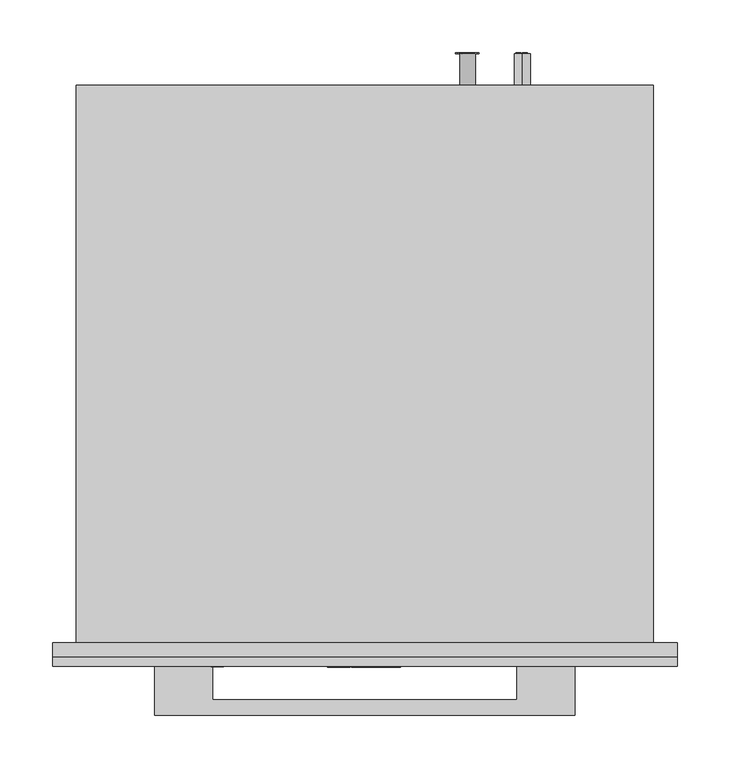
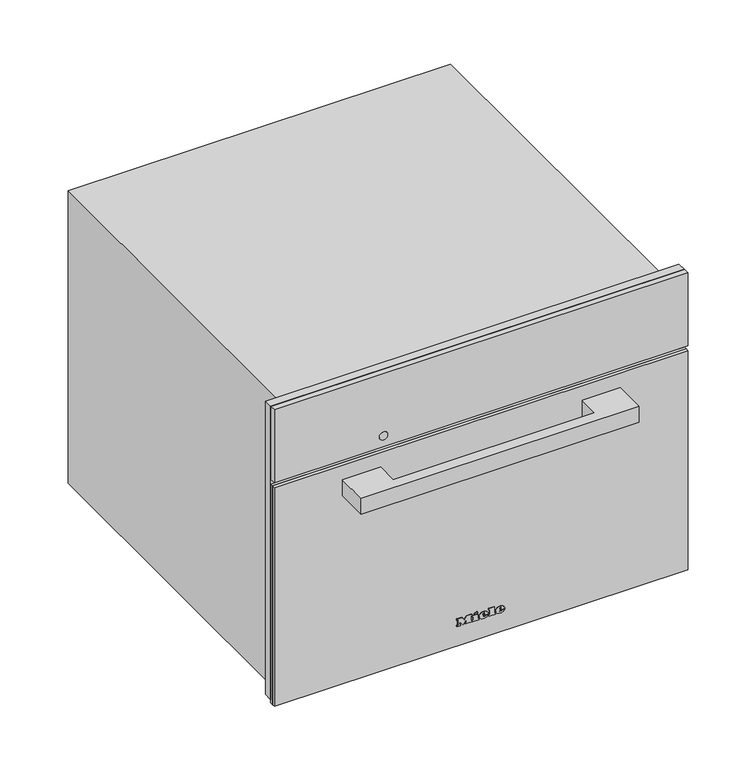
"""IFC4 building model written with IfcOpenShell, lengths in millimetres: proxy geometry, 11094550_GB_DGM7845_GRGR : 23784534_GB_11094550_DGM7845_GRGR."""

import ifcopenshell
import ifcopenshell.guid

model = None  # the IFC model being written
_history = None  # IfcOwnerHistory: only IFC2X3 demands one
_inside = {}  # id of a spatial element -> (the spatial element, [elements in it])
_under = {}  # id of a project, library or spatial element -> (it, [spatial elements below it])
_declared = {}  # id of a project -> (the project, [libraries it declares])
_typed = {}  # id of a type object -> (the type object, [elements of that type])
_made_of = {}  # id of a material, layer set ... -> (it, [elements and type objects made of it])


def new_model(schema):
    """Start an empty IFC model of exactly this schema.

    Asked for "IFC4X3", IfcOpenShell would pick the latest addendum, in which some entities
    have other attributes; the version numbers below select the first issue.
    IFC2X3 requires an IfcOwnerHistory on every rooted entity: one is made here for all.
    """
    global model, _history
    if schema == "IFC4X3":
        model = ifcopenshell.file(schema_version=(4, 3, 0, 0))
    else:
        model = ifcopenshell.file(schema=schema)
    _inside.clear()
    _under.clear()
    _declared.clear()
    _typed.clear()
    _made_of.clear()
    _history = None
    if model.schema == "IFC2X3":
        org = make("IfcOrganization", Name="unknown")
        user = make(
            "IfcPersonAndOrganization",
            ThePerson=make("IfcPerson", FamilyName="unknown"),
            TheOrganization=org,
        )
        app = make(
            "IfcApplication",
            ApplicationDeveloper=org,
            Version="unknown",
            ApplicationFullName="unknown",
            ApplicationIdentifier="unknown",
        )
        _history = make(
            "IfcOwnerHistory",
            OwningUser=user,
            OwningApplication=app,
            ChangeAction="ADDED",
            CreationDate=0,
        )
    return model


def make(cls, **values):
    """One entity of the class cls with the attributes given. An attribute that is None is left unset."""
    return model.create_entity(
        cls, **{name: value for name, value in values.items() if value is not None}
    )


def rooted(cls, **values):
    """An entity with a GlobalId (a new one), such as an element, a storey or a relation."""
    return make(cls, GlobalId=ifcopenshell.guid.new(), OwnerHistory=_history, **values)


def si_unit(unit_type, name, prefix=None):
    """IfcSIUnit, for example si_unit("LENGTHUNIT", "METRE", prefix="MILLI")."""
    return make("IfcSIUnit", UnitType=unit_type, Prefix=prefix, Name=name)


def assignment(units):
    """IfcUnitAssignment: the units of a project."""
    return None if units is None else make("IfcUnitAssignment", Units=units)


def point(xyz):
    """IfcCartesianPoint."""
    return None if xyz is None else make("IfcCartesianPoint", Coordinates=xyz)


def direction(xyz):
    """IfcDirection."""
    return None if xyz is None else make("IfcDirection", DirectionRatios=xyz)


def frame(location, z_axis=None, x_axis=None):
    """IfcAxis2Placement3D, a coordinate frame: its origin and axes. An axis left out is left unset."""
    return make(
        "IfcAxis2Placement3D",
        Location=point(location),
        Axis=direction(z_axis),
        RefDirection=direction(x_axis),
    )


def frame_2d(location, x_axis=None):
    """IfcAxis2Placement2D, a coordinate frame in the plane: its origin and x axis."""
    return make(
        "IfcAxis2Placement2D", Location=point(location), RefDirection=direction(x_axis)
    )


def origin():
    """The frame at (0, 0, 0) with its axes left unset."""
    return frame((0.0, 0.0, 0.0))


def place(relative_to, where):
    """IfcLocalPlacement: puts the frame where relative to a parent placement (None: the world)."""
    return make(
        "IfcLocalPlacement", PlacementRelTo=relative_to, RelativePlacement=where
    )


def context(
    kind, dimensions, precision=None, world=None, true_north=None, identifier=None
):
    """IfcGeometricRepresentationContext, for example the 3D "Model" context."""
    return make(
        "IfcGeometricRepresentationContext",
        ContextIdentifier=identifier,
        ContextType=kind,
        CoordinateSpaceDimension=dimensions,
        Precision=precision,
        WorldCoordinateSystem=world,
        TrueNorth=true_north,
    )


def project(units=None, contexts=None):
    """IfcProject with its units and contexts."""
    return rooted(
        "IfcProject",
        Name="project",
        RepresentationContexts=contexts,
        UnitsInContext=assignment(units),
    )


def spatial(cls, under=None, at=None, **own):
    """A site, building, storey or space (cls), placed at a placement, below another one or the project."""
    s = rooted(cls, ObjectPlacement=at, **own)
    if under is not None:
        _under.setdefault(under.id(), (under, []))[1].append(s)
    return s


def polyline(points):
    """IfcPolyline through the points."""
    return make("IfcPolyline", Points=[point(p) for p in points])


def circle_curve(where, radius):
    """IfcCircle in the frame where."""
    return make("IfcCircle", Position=where, Radius=radius)


def ellipse_curve(where, semi_axis1, semi_axis2):
    """IfcEllipse in the frame where."""
    return make(
        "IfcEllipse", Position=where, SemiAxis1=semi_axis1, SemiAxis2=semi_axis2
    )


def trimmed(basis, trim1, trim2, sense, master):
    """IfcTrimmedCurve: the piece of a basis curve between two trims."""
    return make(
        "IfcTrimmedCurve",
        BasisCurve=basis,
        Trim1=trim1,
        Trim2=trim2,
        SenseAgreement=sense,
        MasterRepresentation=master,
    )


def segment(curve, same_sense, transition):
    """IfcCompositeCurveSegment."""
    return make(
        "IfcCompositeCurveSegment",
        Transition=transition,
        SameSense=same_sense,
        ParentCurve=curve,
    )


def composite_curve(segments, self_intersect=None):
    """IfcCompositeCurve: segments joined end to end."""
    return make("IfcCompositeCurve", Segments=segments, SelfIntersect=self_intersect)


def outline(outer, holes=None, kind="AREA"):
    """IfcArbitraryClosedProfileDef: a profile drawn as a closed curve; with holes, ...WithVoids."""
    if holes is None:
        return make("IfcArbitraryClosedProfileDef", ProfileType=kind, OuterCurve=outer)
    return make(
        "IfcArbitraryProfileDefWithVoids",
        ProfileType=kind,
        OuterCurve=outer,
        InnerCurves=holes,
    )


def extrude(swept, where, along, depth):
    """IfcExtrudedAreaSolid: the profile swept, set in the frame where, extruded along a direction by depth."""
    return make(
        "IfcExtrudedAreaSolid",
        SweptArea=swept,
        Position=where,
        ExtrudedDirection=direction(along),
        Depth=depth,
    )


def faces_of(points, faces, orient=None, outer=None):
    """IfcFace entities. A face is a list of loops; a loop is a list of indices into points, from 0.

    orient and outer hold one flag for each loop. By default every Orientation is true, the
    first loop of a face is its IfcFaceOuterBound and the others are IfcFaceBound.
    """
    made = []
    for i, loops in enumerate(faces):
        bounds = []
        for j, loop in enumerate(loops):
            is_outer = j == 0 if outer is None else outer[i][j]
            bounds.append(
                make(
                    "IfcFaceOuterBound" if is_outer else "IfcFaceBound",
                    Bound=make("IfcPolyLoop", Polygon=[points[k] for k in loop]),
                    Orientation=True if orient is None else orient[i][j],
                )
            )
        made.append(make("IfcFace", Bounds=bounds))
    return made


def faceted_brep(points, faces, orient=None, outer=None, voids=None):
    """IfcFacetedBrep: a solid bounded by flat faces; with voids (closed shells), ...WithVoids."""
    shared = [point(p) for p in points]
    hull = make("IfcClosedShell", CfsFaces=faces_of(shared, faces, orient, outer))
    if voids is None:
        return make("IfcFacetedBrep", Outer=hull)
    return make(
        "IfcFacetedBrepWithVoids",
        Outer=hull,
        Voids=[
            make(cls, CfsFaces=faces_of(shared, fs, o, b)) for cls, fs, o, b in voids
        ],
    )


def shape(context_of_items, identifier, shape_type, items):
    """IfcShapeRepresentation: the items that make up one representation, for example the "Body"."""
    return make(
        "IfcShapeRepresentation",
        ContextOfItems=context_of_items,
        RepresentationIdentifier=identifier,
        RepresentationType=shape_type,
        Items=items,
    )


def source(mapping_origin, context_of_items, identifier, shape_type, items):
    """IfcRepresentationMap: a shape defined once, which mapped items show again and again."""
    return make(
        "IfcRepresentationMap",
        MappingOrigin=mapping_origin,
        MappedRepresentation=shape(context_of_items, identifier, shape_type, items),
    )


def transform(
    local_origin,
    x_axis=None,
    y_axis=None,
    z_axis=None,
    scale=None,
    scale2=None,
    scale3=None,
    uniform=True,
):
    """IfcCartesianTransformationOperator3D, or its non-uniform kind. x_axis, y_axis, z_axis: its Axis1, 2, 3."""
    if uniform:
        return make(
            "IfcCartesianTransformationOperator3D",
            Axis1=direction(x_axis),
            Axis2=direction(y_axis),
            LocalOrigin=point(local_origin),
            Scale=scale,
            Axis3=direction(z_axis),
        )
    return make(
        "IfcCartesianTransformationOperator3DnonUniform",
        Axis1=direction(x_axis),
        Axis2=direction(y_axis),
        LocalOrigin=point(local_origin),
        Scale=scale,
        Axis3=direction(z_axis),
        Scale2=scale2,
        Scale3=scale3,
    )


def mapped(mapping_source, mapping_target):
    """IfcMappedItem: shows the shape of a source again, moved by a transform."""
    return make(
        "IfcMappedItem", MappingSource=mapping_source, MappingTarget=mapping_target
    )


def made_of(thing, what):
    """Note that an element or type object is made of a material, layer set ...; save() writes the relation."""
    if what is not None:
        _made_of.setdefault(what.id(), (what, []))[1].append(thing)
    return thing


def element(
    cls,
    number,
    at=None,
    inside=None,
    cuts=None,
    type_object=None,
    material=None,
    context=None,
    identifier="Body",
    shape_type=None,
    held_by="IfcProductDefinitionShape",
    body=None,
    shapes=None,
    **own,
):
    """One element of the class cls, such as IfcWall. Its Tag is "e" and its number.

    at: its placement. inside: the storey or other place that contains it. cuts: it is an
    opening in that element (IfcRelVoidsElement). A single representation is given by context,
    identifier, shape_type and body (its items); several are given by shapes. held_by: the class
    of the entity that holds the representations. save() writes the other relations.
    """
    e = rooted(cls, Tag="e%d" % number, ObjectPlacement=at, **own)
    if body is not None:
        shapes = [shape(context, identifier, shape_type, body)]
    if shapes is not None:
        e.Representation = make(held_by, Representations=shapes)
    if inside is not None:
        _inside.setdefault(inside.id(), (inside, []))[1].append(e)
    if cuts is not None:
        rooted(
            "IfcRelVoidsElement", RelatingBuildingElement=cuts, RelatedOpeningElement=e
        )
    if type_object is not None:
        _typed.setdefault(type_object.id(), (type_object, []))[1].append(e)
    return made_of(e, material)


def aggregate(whole, parts):
    """IfcRelAggregates: a whole, such as a stair, and the parts it consists of."""
    return rooted("IfcRelAggregates", RelatingObject=whole, RelatedObjects=parts)


def save(model, path):
    """Write the relations noted so far, then the file.

    IfcRelAggregates (storeys below a building ...), IfcRelContainedInSpatialStructure (elements
    in a storey), IfcRelDefinesByType, IfcRelAssociatesMaterial and IfcRelDeclares: one each for
    every whole, place, type object, material and project.
    """
    for whole, parts in _under.values():
        aggregate(whole, parts)
    for where, things in _inside.values():
        rooted(
            "IfcRelContainedInSpatialStructure",
            RelatedElements=things,
            RelatingStructure=where,
        )
    for kind, things in _typed.values():
        rooted("IfcRelDefinesByType", RelatedObjects=things, RelatingType=kind)
    for what, things in _made_of.values():
        rooted("IfcRelAssociatesMaterial", RelatedObjects=things, RelatingMaterial=what)
    for by, libraries in _declared.values():
        rooted("IfcRelDeclares", RelatingContext=by, RelatedDefinitions=libraries)
    model.write(path)


def plane_surface(at):
    """IfcPlane: the flat surface through the origin of the frame at, square to its z axis."""
    return make("IfcPlane", Position=at)


def cylinder_surface(at, radius):
    """IfcCylindricalSurface: all points at the distance radius from the z axis of the frame at."""
    return make("IfcCylindricalSurface", Position=at, Radius=radius)


def revolved_surface(curve, axis_point, axis_direction):
    """IfcSurfaceOfRevolution: the curve turned about the line through axis_point along axis_direction."""
    return make(
        "IfcSurfaceOfRevolution",
        SweptCurve=make("IfcArbitraryOpenProfileDef", ProfileType="CURVE", Curve=curve),
        AxisPosition=make("IfcAxis1Placement", Location=point(axis_point), Axis=direction(axis_direction)),
    )


def extruded_surface(curve, direction_of_extrusion, depth):
    """IfcSurfaceOfLinearExtrusion: the curve pushed along a direction by depth."""
    return make(
        "IfcSurfaceOfLinearExtrusion",
        SweptCurve=make("IfcArbitraryOpenProfileDef", ProfileType="CURVE", Curve=curve),
        ExtrudedDirection=direction(direction_of_extrusion),
        Depth=depth,
    )


def advanced_brep(points, edges, surfaces, faces):
    """IfcAdvancedBrep: a solid bounded by faces that lie on surfaces and meet in shared edges.

    An edge is (start, end): straight between two places in points (the first is 0);
    or (start, end, curve); or (start, end, curve, False) where it runs against its curve.
    A face is (place in surfaces, loops), or (place, loops, False) where it looks against
    its surface's normal. A loop lists edges by number (the first is 1), with a minus sign
    where the edge is run from its end to its start. The first loop is the outer one.
    """
    corners = [point(p) for p in points]
    vertices = [make("IfcVertexPoint", VertexGeometry=c) for c in corners]
    made = []
    for start, end, *more in edges:
        made.append(
            make(
                "IfcEdgeCurve",
                EdgeStart=vertices[start],
                EdgeEnd=vertices[end],
                EdgeGeometry=more[0] if more else make("IfcPolyline", Points=[corners[start], corners[end]]),
                SameSense=more[1] if len(more) > 1 else True,
            )
        )
    hull = []
    for where, loops, *sense in faces:
        bounds = []
        for j, loop in enumerate(loops):
            ring = [make("IfcOrientedEdge", EdgeElement=made[abs(k) - 1], Orientation=k > 0) for k in loop]
            bounds.append(
                make(
                    "IfcFaceOuterBound" if j == 0 else "IfcFaceBound",
                    Bound=make("IfcEdgeLoop", EdgeList=ring),
                    Orientation=True,
                )
            )
        hull.append(make("IfcAdvancedFace", Bounds=bounds, FaceSurface=surfaces[where], SameSense=sense[0] if sense else True))
    return make("IfcAdvancedBrep", Outer=make("IfcClosedShell", CfsFaces=hull))


def specialty_equipment_98d2ad13(model_context):
    return source(origin(), model_context, "Body", "SolidModel", [
        extrude(outline(polyline([(455.0, 297.5), (455.0, -297.5), (9.0, -297.5), (9.0, -272.5), (344.0, -272.5), (344.0, 272.5), (9.0, 272.5), (9.0, 297.5), (455.0, 297.5)])), frame((0.0, -13.0, 0.0), z_axis=(0.0, 1.0, 0.0), x_axis=(0.0, 0.0, 1.0)), (0.0, 0.0, 1.0), 13.0),
        extrude(outline(polyline([(378.0, 95.9217896), (378.0, 97.4267862), (388.0435673, 100.1942402), (388.0435673, 98.9014806), (379.4295103, 96.7797951), (388.0470645, 94.3087512), (388.0470645, 92.4373937), (379.4121052, 89.9191482), (388.0472266, 87.8443938), (388.0472266, 86.5376524), (378.0, 89.2769667), (378.0, 90.6257455), (386.8347238, 93.3884733), (378.0, 95.9217896)])), frame((0.0, 561.0, 0.0), z_axis=(0.0, 1.0, 0.0), x_axis=(0.0, 0.0, 1.0)), (0.0, 0.0, 1.0), 1.0),
        extrude(outline(polyline([(388.0468463, 108.521488), (388.0468463, 107.2566067), (383.129594, 107.2566067), (388.0474898, 102.1074328), (388.0474898, 100.3597489), (383.9313111, 104.6695027), (378.0, 100.1858157), (378.0, 101.7358731), (383.0700777, 105.5685235), (381.4282746, 107.2823622), (378.0, 107.2823622), (378.0, 108.521488), (388.0468463, 108.521488)])), frame((0.0, 561.0, 0.0), z_axis=(0.0, 1.0, 0.0), x_axis=(0.0, 0.0, 1.0)), (0.0, 0.0, 1.0), 1.0),
        advanced_brep(
        [(150.0, 561.0, 410.5), (150.0, 561.0, 395.5), (144.4098301, 561.0, 398.0), (148.5, 561.0, 398.0), (148.5, 561.0, 408.0), (147.4955303, 561.0, 408.0), (147.4955303, 561.0, 399.0), (144.0315043, 561.0, 399.0), (144.0315043, 561.0, 398.4582978), (155.0, 561.0, 398.0), (155.0, 561.0, 408.0), (150.0, 561.0, 408.0), (150.0, 561.0, 407.0), (154.0, 561.0, 407.0), (154.0, 561.0, 403.5), (151.0, 561.0, 403.5), (151.0, 561.0, 402.5), (154.0, 561.0, 402.5), (154.0, 561.0, 399.0), (150.0, 561.0, 399.0), (150.0, 561.0, 398.0), (150.0, 531.0, 395.5), (150.0, 531.0, 410.5), (155.0, 562.0, 408.0), (155.0, 562.0, 398.0), (150.0, 562.0, 398.0), (150.0, 562.0, 399.0), (154.0, 562.0, 399.0), (154.0, 562.0, 402.5), (151.0, 562.0, 402.5), (151.0, 562.0, 403.5), (154.0, 562.0, 403.5), (154.0, 562.0, 407.0), (150.0, 562.0, 407.0), (150.0, 562.0, 408.0), (148.5, 562.0, 398.0), (144.0315043, 562.0, 398.0), (144.0315043, 562.0, 399.0), (147.4955303, 562.0, 399.0), (147.4955303, 562.0, 408.0), (148.5, 562.0, 408.0), (144.0315043, 561.0, 398.0)],
        [
            (0, 1, circle_curve(frame((150.0, 561.0, 403.0), z_axis=(0.0, 1.0, 0.0), x_axis=(0.0, 0.0, 1.0)), 7.5)),
            (1, 2, circle_curve(frame((150.0, 561.0, 403.0), z_axis=(0.0, 1.0, 0.0), x_axis=(0.0, 0.0, 1.0)), 7.5)),
            (2, 3),
            (3, 4),
            (4, 5),
            (5, 6),
            (6, 7),
            (7, 8),
            (8, 0, circle_curve(frame((150.0, 561.0, 403.0), z_axis=(0.0, 1.0, 0.0), x_axis=(0.0, 0.0, 1.0)), 7.5)),
            (9, 10),
            (10, 11),
            (11, 12),
            (12, 13),
            (13, 14),
            (14, 15),
            (15, 16),
            (16, 17),
            (17, 18),
            (18, 19),
            (19, 20),
            (20, 9),
            (21, 22, circle_curve(frame((150.0, 531.0, 403.0), z_axis=(0.0, -1.0, 0.0), x_axis=(0.0, 0.0, 1.0)), 7.5)),
            (22, 21, circle_curve(frame((150.0, 531.0, 403.0), z_axis=(0.0, -1.0, 0.0), x_axis=(0.0, 0.0, 1.0)), 7.5)),
            (0, 22),
            (21, 1),
            (8, 2, circle_curve(frame((150.0, 561.0, 403.0), z_axis=(0.0, -1.0, 0.0), x_axis=(0.0, 0.0, 1.0)), 7.5)),
            (23, 24),
            (24, 25),
            (25, 26),
            (26, 27),
            (27, 28),
            (28, 29),
            (29, 30),
            (30, 31),
            (31, 32),
            (32, 33),
            (33, 34),
            (34, 23),
            (35, 36),
            (36, 37),
            (37, 38),
            (38, 39),
            (39, 40),
            (40, 35),
            (8, 41),
            (41, 2),
            (23, 10),
            (9, 24),
            (20, 25),
            (19, 26),
            (18, 27),
            (17, 28),
            (16, 29),
            (15, 30),
            (14, 31),
            (13, 32),
            (12, 33),
            (11, 34),
            (35, 3),
            (41, 36),
            (7, 37),
            (6, 38),
            (5, 39),
            (4, 40),
        ],
        [
            plane_surface(frame((150.0, 561.0, 410.5), z_axis=(0.0, 1.0, 0.0), x_axis=(1.0, 0.0, 0.0))),
            plane_surface(frame((150.0, 531.0, 410.5), z_axis=(0.0, -1.0, 0.0), x_axis=(-1.0, 0.0, 0.0))),
            cylinder_surface(frame((150.0, 561.0, 403.0), z_axis=(0.0, -1.0, 0.0), x_axis=(0.0, 0.0, 1.0)), 7.5),
            plane_surface(frame((155.0, 562.0, 408.0), z_axis=(0.0, 1.0, 0.0), x_axis=(0.0, 0.0, -1.0))),
            plane_surface(frame((155.0, 561.0, 408.0), z_axis=(0.0, -1.0, 0.0), x_axis=(0.0, 0.0, 1.0))),
            plane_surface(frame((155.0, 562.0, 408.0), z_axis=(1.0, 0.0, 0.0), x_axis=(0.0, -1.0, 0.0))),
            plane_surface(frame((155.0, 562.0, 398.0), z_axis=(0.0, 0.0, -1.0), x_axis=(0.0, -1.0, 0.0))),
            plane_surface(frame((150.0, 562.0, 398.0), z_axis=(-1.0, 0.0, 0.0), x_axis=(0.0, -1.0, 0.0))),
            plane_surface(frame((150.0, 562.0, 399.0), z_axis=(0.0, 0.0, 1.0), x_axis=(0.0, -1.0, 0.0))),
            plane_surface(frame((154.0, 562.0, 399.0), z_axis=(-1.0, 0.0, 0.0), x_axis=(0.0, -1.0, 0.0))),
            plane_surface(frame((154.0, 562.0, 402.5), z_axis=(0.0, 0.0, -1.0), x_axis=(0.0, -1.0, 0.0))),
            plane_surface(frame((151.0, 562.0, 402.5), z_axis=(-1.0, 0.0, 0.0), x_axis=(0.0, -1.0, 0.0))),
            plane_surface(frame((151.0, 562.0, 403.5), z_axis=(0.0, 0.0, 1.0), x_axis=(0.0, -1.0, 0.0))),
            plane_surface(frame((154.0, 562.0, 403.5), z_axis=(-1.0, 0.0, 0.0), x_axis=(0.0, -1.0, 0.0))),
            plane_surface(frame((154.0, 562.0, 407.0), z_axis=(0.0, 0.0, -1.0), x_axis=(0.0, -1.0, 0.0))),
            plane_surface(frame((150.0, 562.0, 407.0), z_axis=(-1.0, 0.0, 0.0), x_axis=(0.0, -1.0, 0.0))),
            plane_surface(frame((150.0, 562.0, 408.0), z_axis=(0.0, 0.0, 1.0), x_axis=(0.0, -1.0, 0.0))),
            plane_surface(frame((148.5, 562.0, 398.0), z_axis=(0.0, 0.0, -1.0), x_axis=(0.0, -1.0, 0.0))),
            plane_surface(frame((144.0315043, 562.0, 398.0), z_axis=(-1.0, 0.0, 0.0), x_axis=(0.0, -1.0, 0.0))),
            plane_surface(frame((144.0315043, 562.0, 399.0), z_axis=(0.0, 0.0, 1.0), x_axis=(0.0, -1.0, 0.0))),
            plane_surface(frame((147.4955303, 562.0, 399.0), z_axis=(-1.0, 0.0, 0.0), x_axis=(0.0, -1.0, 0.0))),
            plane_surface(frame((147.4955303, 562.0, 408.0), z_axis=(0.0, 0.0, 1.0), x_axis=(0.0, -1.0, 0.0))),
            plane_surface(frame((148.5, 562.0, 408.0), z_axis=(1.0, 0.0, 0.0), x_axis=(0.0, -1.0, 0.0))),
        ],
        [
            (0, [[1, 2, 3, 4, 5, 6, 7, 8, 9], [10, 11, 12, 13, 14, 15, 16, 17, 18, 19, 20, 21]]),
            (1, [[22, 23]]),
            (2, [[-1, 24, -22, 25]]),
            (2, [[-23, -24, -9, 26, -2, -25]]),
            (3, [[27, 28, 29, 30, 31, 32, 33, 34, 35, 36, 37, 38]]),
            (3, [[39, 40, 41, 42, 43, 44]]),
            (4, [[45, 46, -26]]),
            (5, [[-27, 47, -10, 48]]),
            (6, [[-28, -48, -21, 49]]),
            (7, [[-29, -49, -20, 50]]),
            (8, [[-30, -50, -19, 51]]),
            (9, [[-31, -51, -18, 52]]),
            (10, [[-32, -52, -17, 53]]),
            (11, [[-33, -53, -16, 54]]),
            (12, [[-34, -54, -15, 55]]),
            (13, [[-35, -55, -14, 56]]),
            (14, [[-36, -56, -13, 57]]),
            (15, [[-37, -57, -12, 58]]),
            (16, [[-38, -58, -11, -47]]),
            (17, [[-39, 59, -3, -46, 60]]),
            (18, [[-40, -60, -45, -8, 61]]),
            (19, [[-41, -61, -7, 62]]),
            (20, [[-42, -62, -6, 63]]),
            (21, [[-43, -63, -5, 64]]),
            (22, [[-44, -64, -4, -59]]),
        ],
    ),
        extrude(outline(composite_curve([segment(trimmed(circle_curve(frame_2d((383.0, 98.0)), 7.5), [point((383.0, 105.5))], [point((383.0, 90.5))], False, "CARTESIAN"), True, "CONTINUOUS"), segment(trimmed(circle_curve(frame_2d((383.0, 98.0)), 7.5), [point((383.0, 90.5))], [point((383.0, 105.5))], False, "CARTESIAN"), True, "CONTINUOUS")], self_intersect=False)), frame((0.0, 531.0, 0.0), z_axis=(0.0, 1.0, 0.0), x_axis=(0.0, 0.0, 1.0)), (0.0, 0.0, 1.0), 30.0),
        faceted_brep([(275.0, 531.0, 445.0), (275.0, 531.0, 0.0), (-275.0, 531.0, 0.0), (-275.0, 531.0, 445.0), (275.0, 0.0, 445.0), (-275.0, 0.0, 445.0), (-275.0, 0.0, 0.0), (275.0, 0.0, 0.0), (-272.5, 0.0, 344.0), (272.5, 0.0, 344.0), (272.5, 0.0, 8.0), (-272.5, 0.0, 8.0), (272.5, 12.0, 344.0), (-272.5, 12.0, 344.0), (-272.5, 12.0, 8.0), (272.5, 12.0, 8.0), (161.0, 12.0, 286.0), (161.0, 12.0, 58.0), (-220.0, 12.0, 58.0), (-220.0, 12.0, 286.0), (161.0, 419.0, 286.0), (-220.0, 419.0, 286.0), (-220.0, 419.0, 58.0), (161.0, 419.0, 58.0)], [[[0, 1, 2, 3]], [[4, 5, 6, 7], [8, 9, 10, 11]], [[0, 3, 5, 4]], [[3, 2, 6, 5]], [[2, 1, 7, 6]], [[1, 0, 4, 7]], [[12, 13, 14, 15], [16, 17, 18, 19]], [[13, 12, 9, 8]], [[14, 13, 8, 11]], [[15, 14, 11, 10]], [[12, 15, 10, 9]], [[20, 21, 22, 23]], [[20, 23, 17, 16]], [[23, 22, 18, 17]], [[22, 21, 19, 18]], [[21, 20, 16, 19]]]),
        advanced_brep(
        [(26.2998, -23.0, 36.7018), (26.2998, -23.0, 37.8532), (33.9264, -23.0, 37.8532), (20.6568, -23.0, 37.8532), (23.7918, -23.0, 34.0), (33.7326, -23.0, 36.7018), (30.2898, -23.0, 36.7018), (27.5766, -23.0, 35.425), (26.2998, -23.0, 39.3124), (26.2998, -23.0, 40.555), (28.2492, -23.0, 40.555), (28.2492, -23.0, 39.3124), (26.2998, -22.0, 36.7018), (27.5766, -22.0, 35.425), (30.2898, -22.0, 36.7018), (33.7326, -22.0, 36.7018), (23.7918, -22.0, 34.0), (20.6568, -22.0, 37.8532), (33.9264, -22.0, 37.8532), (26.2998, -22.0, 37.8532), (26.2998, -22.0, 39.3124), (28.2492, -22.0, 39.3124), (28.2492, -22.0, 40.555), (26.2998, -22.0, 40.555)],
        [
            (0, 1),
            (1, 2),
            (2, 3, ellipse_curve(frame((27.2916, -23.0, 37.8532), z_axis=(0.0, -1.0, 0.0), x_axis=(-1.0, 0.0, 0.0)), 6.6348, 5.4834)),
            (3, 4, circle_curve(frame((25.0686622, -23.0, 38.2408), z_axis=(0.0, -1.0, 0.0), x_axis=(0.0, 0.0, -1.0)), 4.4288556)),
            (4, 5, circle_curve(frame((27.1587808, -23.0, 41.2504), z_axis=(0.0, -1.0, 0.0), x_axis=(0.0, 0.0, -1.0)), 7.9940516)),
            (5, 6),
            (6, 7, circle_curve(frame((28.1338588, -23.0, 37.762), z_axis=(0.0, 1.0, 0.0), x_axis=(0.0, 0.0, -1.0)), 2.4025208)),
            (7, 0, circle_curve(frame((27.5766, -23.0, 36.7018), z_axis=(0.0, 1.0, 0.0), x_axis=(0.0, 0.0, -1.0)), 1.2768)),
            (8, 9),
            (9, 10, circle_curve(frame((27.2745, -23.0, 40.555), z_axis=(0.0, 1.0, 0.0), x_axis=(0.0, 0.0, -1.0)), 0.9747)),
            (10, 11),
            (11, 8),
            (12, 13, circle_curve(frame((27.5766, -22.0, 36.7018), z_axis=(0.0, -1.0, 0.0), x_axis=(0.0, 0.0, -1.0)), 1.2768)),
            (13, 14, circle_curve(frame((28.1338588, -22.0, 37.762), z_axis=(0.0, -1.0, 0.0), x_axis=(0.0, 0.0, -1.0)), 2.4025208)),
            (14, 15),
            (15, 16, circle_curve(frame((27.1587808, -22.0, 41.2504), z_axis=(0.0, 1.0, 0.0), x_axis=(0.0, 0.0, -1.0)), 7.9940516)),
            (16, 17, circle_curve(frame((25.0686622, -22.0, 38.2408), z_axis=(0.0, 1.0, 0.0), x_axis=(0.0, 0.0, -1.0)), 4.4288556)),
            (17, 18, ellipse_curve(frame((27.2916, -22.0, 37.8532), z_axis=(0.0, 1.0, 0.0), x_axis=(-1.0, 0.0, 0.0)), 6.6348, 5.4834)),
            (18, 19),
            (19, 12),
            (20, 21),
            (21, 22),
            (22, 23, circle_curve(frame((27.2745, -22.0, 40.555), z_axis=(0.0, -1.0, 0.0), x_axis=(0.0, 0.0, -1.0)), 0.9747)),
            (23, 20),
            (0, 12),
            (19, 1),
            (18, 2),
            (5, 15),
            (14, 6),
            (17, 3),
            (13, 7),
            (16, 4),
            (8, 20),
            (23, 9),
            (22, 10),
            (21, 11),
        ],
        [
            plane_surface(frame((26.2998, -23.0, 37.8532), z_axis=(0.0, -1.0, 0.0), x_axis=(0.0, 0.0, 1.0))),
            plane_surface(frame((26.2998, -22.0, 37.8532), z_axis=(0.0, 1.0, 0.0), x_axis=(0.0, 0.0, -1.0))),
            plane_surface(frame((26.2998, -23.0, 36.7018), z_axis=(1.0, 0.0, 0.0), x_axis=(0.0, 1.0, 0.0))),
            plane_surface(frame((26.2998, -23.0, 37.8532), z_axis=(0.0, 0.0, -1.0), x_axis=(0.0, 1.0, 0.0))),
            plane_surface(frame((33.7326, -23.0, 36.7018), z_axis=(0.0, 0.0, 1.0), x_axis=(0.0, 1.0, 0.0))),
            extruded_surface(trimmed(ellipse_curve(frame((27.2916, -21.0, 37.8532), z_axis=(0.0, -1.0, 0.0), x_axis=(-1.0, 0.0, 0.0)), 6.6348, 5.4834), [point((33.9264, -21.0, 37.8532))], [point((20.6568, -21.0, 37.8532))], True, "CARTESIAN"), (0.0, -1.0, 0.0), 1.0),
            revolved_surface(polyline([(28.1338588, -22.0, 35.3594792), (28.1338588, -23.0, 35.3594792)]), (28.1338588, -22.0, 37.762), (0.0, 1.0, 0.0)),
            revolved_surface(polyline([(27.5766, -22.0, 35.425), (27.5766, -23.0, 35.425)]), (27.5766, -22.0, 36.7018), (0.0, 1.0, 0.0)),
            cylinder_surface(frame((25.0686622, -22.0, 38.2408), z_axis=(0.0, -1.0, 0.0), x_axis=(0.0, 0.0, -1.0)), 4.4288556),
            cylinder_surface(frame((27.1587808, -22.0, 41.2504), z_axis=(0.0, -1.0, 0.0), x_axis=(0.0, 0.0, -1.0)), 7.9940516),
            plane_surface(frame((26.2998, -23.0, 39.3124), z_axis=(1.0, 0.0, 0.0), x_axis=(0.0, 1.0, 0.0))),
            revolved_surface(polyline([(27.2745, -22.0, 39.5803), (27.2745, -23.0, 39.5803)]), (27.2745, -22.0, 40.555), (0.0, 1.0, 0.0)),
            plane_surface(frame((28.2492, -23.0, 40.555), z_axis=(-1.0, 0.0, 0.0), x_axis=(0.0, 1.0, 0.0))),
            plane_surface(frame((28.2492, -23.0, 39.3124), z_axis=(0.0, 0.0, 1.0), x_axis=(0.0, 1.0, 0.0))),
        ],
        [
            (0, [[1, 2, 3, 4, 5, 6, 7, 8], [9, 10, 11, 12]]),
            (1, [[13, 14, 15, 16, 17, 18, 19, 20], [21, 22, 23, 24]]),
            (2, [[-1, 25, -20, 26]]),
            (3, [[-2, -26, -19, 27]]),
            (4, [[-6, 28, -15, 29]]),
            (5, [[-3, -27, -18, 30]]),
            (6, [[-7, -29, -14, 31]]),
            (7, [[-8, -31, -13, -25]]),
            (8, [[-4, -30, -17, 32]]),
            (9, [[-5, -32, -16, -28]]),
            (10, [[-9, 33, -24, 34]]),
            (11, [[-10, -34, -23, 35]]),
            (12, [[-11, -35, -22, 36]]),
            (13, [[-12, -36, -21, -33]]),
        ],
    ),
        advanced_brep(
        [(2.508, -23.0, 36.7018), (2.508, -23.0, 37.8532), (10.1346, -23.0, 37.8532), (-3.135, -23.0, 37.8532), (0.0, -23.0, 34.0), (9.9408, -23.0, 36.7018), (6.498, -23.0, 36.7018), (3.7848, -23.0, 35.425), (2.508, -23.0, 39.3124), (2.508, -23.0, 40.555), (4.4574, -23.0, 40.555), (4.4574, -23.0, 39.3124), (2.508, -22.0, 36.7018), (3.7848, -22.0, 35.425), (6.498, -22.0, 36.7018), (9.9408, -22.0, 36.7018), (0.0, -22.0, 34.0), (-3.135, -22.0, 37.8532), (10.1346, -22.0, 37.8532), (2.508, -22.0, 37.8532), (2.508, -22.0, 39.3124), (4.4574, -22.0, 39.3124), (4.4574, -22.0, 40.555), (2.508, -22.0, 40.555)],
        [
            (0, 1),
            (1, 2),
            (2, 3, ellipse_curve(frame((3.4998, -23.0, 37.8532), z_axis=(0.0, -1.0, 0.0), x_axis=(-1.0, 0.0, 0.0)), 6.6348, 5.4834)),
            (3, 4, circle_curve(frame((1.2768622, -23.0, 38.2408), z_axis=(0.0, -1.0, 0.0), x_axis=(0.0, 0.0, -1.0)), 4.4288556)),
            (4, 5, circle_curve(frame((3.3669808, -23.0, 41.2504), z_axis=(0.0, -1.0, 0.0), x_axis=(0.0, 0.0, -1.0)), 7.9940516)),
            (5, 6),
            (6, 7, circle_curve(frame((4.3420588, -23.0, 37.762), z_axis=(0.0, 1.0, 0.0), x_axis=(0.0, 0.0, -1.0)), 2.4025208)),
            (7, 0, circle_curve(frame((3.7848, -23.0, 36.7018), z_axis=(0.0, 1.0, 0.0), x_axis=(0.0, 0.0, -1.0)), 1.2768)),
            (8, 9),
            (9, 10, circle_curve(frame((3.4827, -23.0, 40.555), z_axis=(0.0, 1.0, 0.0), x_axis=(0.0, 0.0, -1.0)), 0.9747)),
            (10, 11),
            (11, 8),
            (12, 13, circle_curve(frame((3.7848, -22.0, 36.7018), z_axis=(0.0, -1.0, 0.0), x_axis=(0.0, 0.0, -1.0)), 1.2768)),
            (13, 14, circle_curve(frame((4.3420588, -22.0, 37.762), z_axis=(0.0, -1.0, 0.0), x_axis=(0.0, 0.0, -1.0)), 2.4025208)),
            (14, 15),
            (15, 16, circle_curve(frame((3.3669808, -22.0, 41.2504), z_axis=(0.0, 1.0, 0.0), x_axis=(0.0, 0.0, -1.0)), 7.9940516)),
            (16, 17, circle_curve(frame((1.2768622, -22.0, 38.2408), z_axis=(0.0, 1.0, 0.0), x_axis=(0.0, 0.0, -1.0)), 4.4288556)),
            (17, 18, ellipse_curve(frame((3.4998, -22.0, 37.8532), z_axis=(0.0, 1.0, 0.0), x_axis=(-1.0, 0.0, 0.0)), 6.6348, 5.4834)),
            (18, 19),
            (19, 12),
            (20, 21),
            (21, 22),
            (22, 23, circle_curve(frame((3.4827, -22.0, 40.555), z_axis=(0.0, -1.0, 0.0), x_axis=(0.0, 0.0, -1.0)), 0.9747)),
            (23, 20),
            (0, 12),
            (19, 1),
            (18, 2),
            (5, 15),
            (14, 6),
            (17, 3),
            (13, 7),
            (16, 4),
            (8, 20),
            (23, 9),
            (22, 10),
            (21, 11),
        ],
        [
            plane_surface(frame((2.508, -23.0, 37.8532), z_axis=(0.0, -1.0, 0.0), x_axis=(0.0, 0.0, 1.0))),
            plane_surface(frame((2.508, -22.0, 37.8532), z_axis=(0.0, 1.0, 0.0), x_axis=(0.0, 0.0, -1.0))),
            plane_surface(frame((2.508, -23.0, 36.7018), z_axis=(1.0, 0.0, 0.0), x_axis=(0.0, 1.0, 0.0))),
            plane_surface(frame((2.508, -23.0, 37.8532), z_axis=(0.0, 0.0, -1.0), x_axis=(0.0, 1.0, 0.0))),
            plane_surface(frame((9.9408, -23.0, 36.7018), z_axis=(0.0, 0.0, 1.0), x_axis=(0.0, 1.0, 0.0))),
            extruded_surface(trimmed(ellipse_curve(frame((3.4998, -21.0, 37.8532), z_axis=(0.0, -1.0, 0.0), x_axis=(-1.0, 0.0, 0.0)), 6.6348, 5.4834), [point((10.1346, -21.0, 37.8532))], [point((-3.135, -21.0, 37.8532))], True, "CARTESIAN"), (0.0, -1.0, 0.0), 1.0),
            revolved_surface(polyline([(4.3420588, -22.0, 35.3594792), (4.3420588, -23.0, 35.3594792)]), (4.3420588, -22.0, 37.762), (0.0, 1.0, 0.0)),
            revolved_surface(polyline([(3.7848, -22.0, 35.425), (3.7848, -23.0, 35.425)]), (3.7848, -22.0, 36.7018), (0.0, 1.0, 0.0)),
            cylinder_surface(frame((1.2768622, -22.0, 38.2408), z_axis=(0.0, -1.0, 0.0), x_axis=(0.0, 0.0, -1.0)), 4.4288556),
            cylinder_surface(frame((3.3669808, -22.0, 41.2504), z_axis=(0.0, -1.0, 0.0), x_axis=(0.0, 0.0, -1.0)), 7.9940516),
            plane_surface(frame((2.508, -23.0, 39.3124), z_axis=(1.0, 0.0, 0.0), x_axis=(0.0, 1.0, 0.0))),
            revolved_surface(polyline([(3.4827, -22.0, 39.5803), (3.4827, -23.0, 39.5803)]), (3.4827, -22.0, 40.555), (0.0, 1.0, 0.0)),
            plane_surface(frame((4.4574, -23.0, 40.555), z_axis=(-1.0, 0.0, 0.0), x_axis=(0.0, 1.0, 0.0))),
            plane_surface(frame((4.4574, -23.0, 39.3124), z_axis=(0.0, 0.0, 1.0), x_axis=(0.0, 1.0, 0.0))),
        ],
        [
            (0, [[1, 2, 3, 4, 5, 6, 7, 8], [9, 10, 11, 12]]),
            (1, [[13, 14, 15, 16, 17, 18, 19, 20], [21, 22, 23, 24]]),
            (2, [[-1, 25, -20, 26]]),
            (3, [[-2, -26, -19, 27]]),
            (4, [[-6, 28, -15, 29]]),
            (5, [[-3, -27, -18, 30]]),
            (6, [[-7, -29, -14, 31]]),
            (7, [[-8, -31, -13, -25]]),
            (8, [[-4, -30, -17, 32]]),
            (9, [[-5, -32, -16, -28]]),
            (10, [[-9, 33, -24, 34]]),
            (11, [[-10, -34, -23, 35]]),
            (12, [[-11, -35, -22, 36]]),
            (13, [[-12, -36, -21, -33]]),
        ],
    ),
        extrude(outline(polyline([(44.7274, -9.9522), (42.8806, -9.0858), (44.6818, -5.2212), (46.5286, -6.0762), (44.7274, -9.9522)])), frame((0.0, -23.0, 0.0), z_axis=(0.0, 1.0, 0.0), x_axis=(0.0, 0.0, 1.0)), (0.0, 0.0, 1.0), 1.0),
        extrude(outline(polyline([(42.6298, -12.768), (40.5892, -12.768), (40.5892, -11.4114), (35.9152, -11.4114), (35.9152, -12.768), (34.0, -12.768), (34.0, -3.7734), (35.9152, -3.7734), (35.9152, -5.0958), (42.6298, -5.0958), (42.6298, -12.768)])), frame((0.0, -23.0, 0.0), z_axis=(0.0, 1.0, 0.0), x_axis=(0.0, 0.0, 1.0)), (0.0, 0.0, 1.0), 1.0),
        extrude(outline(polyline([(43.5418, 10.773), (43.5418, 12.141), (35.9152, 12.141), (35.9152, 10.773), (34.0, 10.773), (34.0, 20.0184), (35.9152, 20.0184), (35.9152, 18.6162), (45.4, 18.6162), (45.4, 10.773), (43.5418, 10.773)])), frame((0.0, -23.0, 0.0), z_axis=(0.0, 1.0, 0.0), x_axis=(0.0, 0.0, 1.0)), (0.0, 0.0, 1.0), 1.0),
        extrude(outline(polyline([(43.5418, -35.4882), (43.5418, -34.1088), (35.9152, -34.1088), (35.9152, -35.4882), (34.0, -35.4882), (34.0, -30.4722), (35.9152, -30.4722), (35.9152, -31.8402), (40.7429247, -31.8402), (34.0, -26.7444), (40.9402223, -21.6258), (35.9152, -21.6258), (35.9152, -23.028), (34.0, -23.028), (34.0, -13.9308), (35.9152, -13.9308), (35.9152, -15.3786), (43.5418, -15.3786), (43.5418, -13.9308), (45.4, -13.9308), (45.4, -20.8734), (41.125, -24.2022), (45.4, -27.5424), (45.4, -35.4882), (43.5418, -35.4882)])), frame((0.0, -23.0, 0.0), z_axis=(0.0, 1.0, 0.0), x_axis=(0.0, 0.0, 1.0)), (0.0, 0.0, 1.0), 1.0),
        extrude(outline(polyline([(297.5, -22.0), (-297.5, -22.0), (-297.5, -13.0), (297.5, -13.0), (297.5, -22.0)])), frame((0.0, 0.0, 344.0), z_axis=(0.0, 0.0, 1.0), x_axis=(1.0, 0.0, 0.0)), (0.0, 0.0, 1.0), 111.0),
        extrude(outline(composite_curve([segment(trimmed(circle_curve(frame_2d((361.0, -140.5745637)), 6.0), [point((361.0, -146.5745637))], [point((361.0, -134.5745637))], False, "CARTESIAN"), True, "CONTINUOUS"), segment(trimmed(circle_curve(frame_2d((361.0, -140.5745637)), 6.0), [point((361.0, -134.5745637))], [point((361.0, -146.5745637))], False, "CARTESIAN"), True, "CONTINUOUS")], self_intersect=False)), frame((0.0, -22.5, 0.0), z_axis=(0.0, 1.0, 0.0), x_axis=(0.0, 0.0, 1.0)), (0.0, 0.0, 1.0), 1.0),
        extrude(outline(polyline([(-297.5, -18.0), (297.5, -18.0), (297.5, -22.0), (-297.5, -22.0), (-297.5, -18.0)])), frame((0.0, 0.0, 4.0), z_axis=(0.0, 0.0, 1.0), x_axis=(1.0, 0.0, 0.0)), (0.0, 0.0, 1.0), 333.0),
        extrude(outline(polyline([(297.5, -18.0), (-297.5, -18.0), (-297.5, -13.0), (297.5, -13.0), (297.5, -18.0)])), frame((0.0, 0.0, 4.0), z_axis=(0.0, 0.0, 1.0), x_axis=(1.0, 0.0, 0.0)), (0.0, 0.0, 1.0), 333.0),
        extrude(outline(polyline([(-200.0, -69.0), (-200.0, -22.0), (-145.0, -22.0), (-145.0, -54.0), (145.0, -54.0), (145.0, -22.0), (200.0, -22.0), (200.0, -69.0), (-200.0, -69.0)])), frame((0.0, 0.0, 291.0), z_axis=(0.0, 0.0, 1.0), x_axis=(1.0, 0.0, 0.0)), (0.0, 0.0, 1.0), 24.0),
    ])


if __name__ == "__main__":
    model = new_model("IFC4")
    model_context = context("Model", 3, world=origin())
    ifc_project = project(units=[si_unit("LENGTHUNIT", "METRE", prefix="MILLI")], contexts=[model_context])
    site = spatial("IfcSite", under=ifc_project)
    building = spatial("IfcBuilding", under=site)
    placement = place(None, origin())
    specialty_equipment_shape = specialty_equipment_98d2ad13(model_context)
    element("IfcBuildingElementProxy", 1, Name="11094550_GB_DGM7845_GRGR : 23784534_GB_11094550_DGM7845_GRGR", ObjectType="11094550_GB_DGM7845_GRGR : 23784534_GB_11094550_DGM7845_GRGR", at=placement, inside=building, context=model_context, shape_type="MappedRepresentation", body=[
        mapped(specialty_equipment_shape, transform((0.0, 0.0, 0.0), x_axis=(1.0, 0.0, 0.0), y_axis=(0.0, 1.0, 0.0), z_axis=(0.0, 0.0, 1.0))),
    ])
    save(model, "model.ifc")
